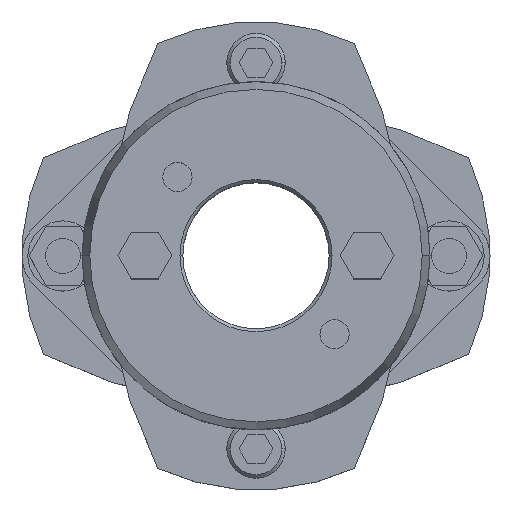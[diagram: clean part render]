
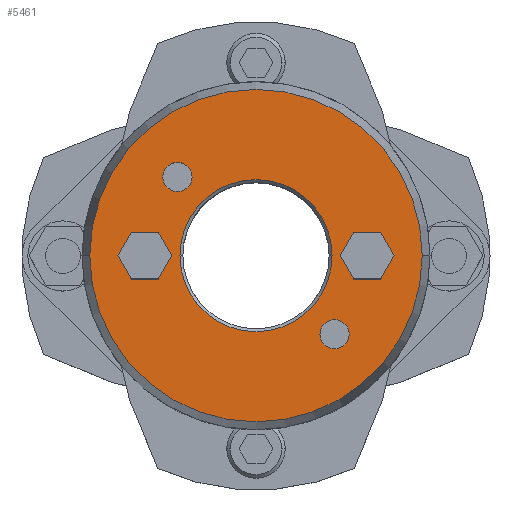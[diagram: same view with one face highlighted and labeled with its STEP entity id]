
A CAD part, top view. The second image highlights one B-rep face of the part: STEP entity #5461.
In plain terms, the highlighted planar face has unit normal (0, 0, 1).
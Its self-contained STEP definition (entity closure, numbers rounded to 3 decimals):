
#857=CARTESIAN_POINT('',(-13.,0.,35.875));
#858=VERTEX_POINT('',#857);
#874=CARTESIAN_POINT('',(13.,0.,35.875));
#875=VERTEX_POINT('',#874);
#882=CARTESIAN_POINT('',(0.,0.,35.875));
#883=DIRECTION('',(0.0,0.0,1.0));
#884=DIRECTION('',(-1.0,0.0,0.0));
#885=AXIS2_PLACEMENT_3D('',#882,#883,#884);
#886=CIRCLE('',#885,13.0);
#887=EDGE_CURVE('',#875,#858,#886,.T.);
#1003=CARTESIAN_POINT('',(28.41,0.,35.875));
#1004=VERTEX_POINT('',#1003);
#1013=CARTESIAN_POINT('',(-28.41,0.,35.875));
#1014=VERTEX_POINT('',#1013);
#1015=CARTESIAN_POINT('',(0.,0.,35.875));
#1016=DIRECTION('',(0.0,0.0,-1.0));
#1017=DIRECTION('',(1.0,0.0,0.0));
#1018=AXIS2_PLACEMENT_3D('',#1015,#1016,#1017);
#1019=CIRCLE('',#1018,28.41);
#1020=EDGE_CURVE('',#1004,#1014,#1019,.T.);
#1189=CARTESIAN_POINT('',(-15.935,13.435,35.875));
#1190=VERTEX_POINT('',#1189);
#1206=CARTESIAN_POINT('',(-10.935,13.435,35.875));
#1207=VERTEX_POINT('',#1206);
#1214=CARTESIAN_POINT('',(-13.435,13.435,35.875));
#1215=DIRECTION('',(0.0,0.0,-1.0));
#1216=DIRECTION('',(-1.0,0.0,0.0));
#1217=AXIS2_PLACEMENT_3D('',#1214,#1215,#1216);
#1218=CIRCLE('',#1217,2.5);
#1219=EDGE_CURVE('',#1190,#1207,#1218,.T.);
#1231=CARTESIAN_POINT('',(10.935,-13.435,35.875));
#1232=VERTEX_POINT('',#1231);
#1248=CARTESIAN_POINT('',(15.935,-13.435,35.875));
#1249=VERTEX_POINT('',#1248);
#1256=CARTESIAN_POINT('',(13.435,-13.435,35.875));
#1257=DIRECTION('',(0.0,0.0,-1.0));
#1258=DIRECTION('',(-1.0,0.0,0.0));
#1259=AXIS2_PLACEMENT_3D('',#1256,#1257,#1258);
#1260=CIRCLE('',#1259,2.5);
#1261=EDGE_CURVE('',#1232,#1249,#1260,.T.);
#4587=CARTESIAN_POINT('',(14.381,0.,35.875));
#4588=VERTEX_POINT('',#4587);
#4595=CARTESIAN_POINT('',(16.691,-4.,35.875));
#4596=VERTEX_POINT('',#4595);
#4597=CARTESIAN_POINT('',(16.691,-4.,35.875));
#4598=DIRECTION('',(-0.5,0.866,0.0));
#4599=VECTOR('',#4598,4.619);
#4600=LINE('',#4597,#4599);
#4601=EDGE_CURVE('',#4596,#4588,#4600,.T.);
#4625=CARTESIAN_POINT('',(16.691,4.,35.875));
#4626=VERTEX_POINT('',#4625);
#4633=CARTESIAN_POINT('',(14.381,0.,35.875));
#4634=DIRECTION('',(0.5,0.866,0.0));
#4635=VECTOR('',#4634,4.619);
#4636=LINE('',#4633,#4635);
#4637=EDGE_CURVE('',#4588,#4626,#4636,.T.);
#4656=CARTESIAN_POINT('',(21.309,4.,35.875));
#4657=VERTEX_POINT('',#4656);
#4664=CARTESIAN_POINT('',(16.691,4.,35.875));
#4665=DIRECTION('',(1.0,0.0,0.0));
#4666=VECTOR('',#4665,4.619);
#4667=LINE('',#4664,#4666);
#4668=EDGE_CURVE('',#4626,#4657,#4667,.T.);
#4687=CARTESIAN_POINT('',(23.619,0.,35.875));
#4688=VERTEX_POINT('',#4687);
#4695=CARTESIAN_POINT('',(21.309,4.,35.875));
#4696=DIRECTION('',(0.5,-0.866,0.0));
#4697=VECTOR('',#4696,4.619);
#4698=LINE('',#4695,#4697);
#4699=EDGE_CURVE('',#4657,#4688,#4698,.T.);
#4718=CARTESIAN_POINT('',(21.309,-4.,35.875));
#4719=VERTEX_POINT('',#4718);
#4726=CARTESIAN_POINT('',(23.619,0.,35.875));
#4727=DIRECTION('',(-0.5,-0.866,0.0));
#4728=VECTOR('',#4727,4.619);
#4729=LINE('',#4726,#4728);
#4730=EDGE_CURVE('',#4688,#4719,#4729,.T.);
#4748=CARTESIAN_POINT('',(21.309,-4.,35.875));
#4749=DIRECTION('',(-1.0,0.0,0.0));
#4750=VECTOR('',#4749,4.619);
#4751=LINE('',#4748,#4750);
#4752=EDGE_CURVE('',#4719,#4596,#4751,.T.);
#4787=CARTESIAN_POINT('',(-23.619,0.,35.875));
#4788=VERTEX_POINT('',#4787);
#4795=CARTESIAN_POINT('',(-21.309,-4.,35.875));
#4796=VERTEX_POINT('',#4795);
#4797=CARTESIAN_POINT('',(-21.309,-4.,35.875));
#4798=DIRECTION('',(-0.5,0.866,0.0));
#4799=VECTOR('',#4798,4.619);
#4800=LINE('',#4797,#4799);
#4801=EDGE_CURVE('',#4796,#4788,#4800,.T.);
#4825=CARTESIAN_POINT('',(-21.309,4.,35.875));
#4826=VERTEX_POINT('',#4825);
#4833=CARTESIAN_POINT('',(-23.619,0.,35.875));
#4834=DIRECTION('',(0.5,0.866,0.0));
#4835=VECTOR('',#4834,4.619);
#4836=LINE('',#4833,#4835);
#4837=EDGE_CURVE('',#4788,#4826,#4836,.T.);
#4856=CARTESIAN_POINT('',(-16.691,4.,35.875));
#4857=VERTEX_POINT('',#4856);
#4864=CARTESIAN_POINT('',(-21.309,4.,35.875));
#4865=DIRECTION('',(1.0,0.0,0.0));
#4866=VECTOR('',#4865,4.619);
#4867=LINE('',#4864,#4866);
#4868=EDGE_CURVE('',#4826,#4857,#4867,.T.);
#4887=CARTESIAN_POINT('',(-14.381,0.,35.875));
#4888=VERTEX_POINT('',#4887);
#4895=CARTESIAN_POINT('',(-16.691,4.,35.875));
#4896=DIRECTION('',(0.5,-0.866,0.0));
#4897=VECTOR('',#4896,4.619);
#4898=LINE('',#4895,#4897);
#4899=EDGE_CURVE('',#4857,#4888,#4898,.T.);
#4918=CARTESIAN_POINT('',(-16.691,-4.,35.875));
#4919=VERTEX_POINT('',#4918);
#4926=CARTESIAN_POINT('',(-14.381,0.,35.875));
#4927=DIRECTION('',(-0.5,-0.866,0.0));
#4928=VECTOR('',#4927,4.619);
#4929=LINE('',#4926,#4928);
#4930=EDGE_CURVE('',#4888,#4919,#4929,.T.);
#4948=CARTESIAN_POINT('',(-16.691,-4.,35.875));
#4949=DIRECTION('',(-1.0,0.0,0.0));
#4950=VECTOR('',#4949,4.619);
#4951=LINE('',#4948,#4950);
#4952=EDGE_CURVE('',#4919,#4796,#4951,.T.);
#4978=CARTESIAN_POINT('',(13.435,-13.435,35.875));
#4979=DIRECTION('',(0.0,0.0,-1.0));
#4980=DIRECTION('',(-1.0,0.0,0.0));
#4981=AXIS2_PLACEMENT_3D('',#4978,#4979,#4980);
#4982=CIRCLE('',#4981,2.5);
#4983=EDGE_CURVE('',#1249,#1232,#4982,.T.);
#5012=CARTESIAN_POINT('',(-13.435,13.435,35.875));
#5013=DIRECTION('',(0.0,0.0,-1.0));
#5014=DIRECTION('',(-1.0,0.0,0.0));
#5015=AXIS2_PLACEMENT_3D('',#5012,#5013,#5014);
#5016=CIRCLE('',#5015,2.5);
#5017=EDGE_CURVE('',#1207,#1190,#5016,.T.);
#5408=CARTESIAN_POINT('',(0.,0.,35.875));
#5409=DIRECTION('',(0.0,0.0,-1.0));
#5410=DIRECTION('',(1.0,0.0,0.0));
#5411=AXIS2_PLACEMENT_3D('',#5408,#5409,#5410);
#5412=CIRCLE('',#5411,28.41);
#5413=EDGE_CURVE('',#1014,#1004,#5412,.T.);
#5418=CARTESIAN_POINT('',(-2.364,0.,35.875));
#5419=DIRECTION('',(0.0,0.0,1.0));
#5420=DIRECTION('',(-1.0,0.0,0.0));
#5421=AXIS2_PLACEMENT_3D('',#5418,#5419,#5420);
#5422=PLANE('',#5421);
#5423=ORIENTED_EDGE('',*,*,#5413,.F.);
#5424=ORIENTED_EDGE('',*,*,#1020,.F.);
#5425=EDGE_LOOP('',(#5423,#5424));
#5426=FACE_OUTER_BOUND('',#5425,.T.);
#5427=ORIENTED_EDGE('',*,*,#4601,.T.);
#5428=ORIENTED_EDGE('',*,*,#4637,.T.);
#5429=ORIENTED_EDGE('',*,*,#4668,.T.);
#5430=ORIENTED_EDGE('',*,*,#4699,.T.);
#5431=ORIENTED_EDGE('',*,*,#4730,.T.);
#5432=ORIENTED_EDGE('',*,*,#4752,.T.);
#5433=EDGE_LOOP('',(#5427,#5428,#5429,#5430,#5431,#5432));
#5434=FACE_BOUND('',#5433,.T.);
#5435=ORIENTED_EDGE('',*,*,#4801,.T.);
#5436=ORIENTED_EDGE('',*,*,#4837,.T.);
#5437=ORIENTED_EDGE('',*,*,#4868,.T.);
#5438=ORIENTED_EDGE('',*,*,#4899,.T.);
#5439=ORIENTED_EDGE('',*,*,#4930,.T.);
#5440=ORIENTED_EDGE('',*,*,#4952,.T.);
#5441=EDGE_LOOP('',(#5435,#5436,#5437,#5438,#5439,#5440));
#5442=FACE_BOUND('',#5441,.T.);
#5443=ORIENTED_EDGE('',*,*,#1261,.T.);
#5444=ORIENTED_EDGE('',*,*,#4983,.T.);
#5445=EDGE_LOOP('',(#5443,#5444));
#5446=FACE_BOUND('',#5445,.T.);
#5447=ORIENTED_EDGE('',*,*,#1219,.T.);
#5448=ORIENTED_EDGE('',*,*,#5017,.T.);
#5449=EDGE_LOOP('',(#5447,#5448));
#5450=FACE_BOUND('',#5449,.T.);
#5451=ORIENTED_EDGE('',*,*,#887,.F.);
#5452=CARTESIAN_POINT('',(0.,0.,35.875));
#5453=DIRECTION('',(0.0,0.0,1.0));
#5454=DIRECTION('',(-1.0,0.0,0.0));
#5455=AXIS2_PLACEMENT_3D('',#5452,#5453,#5454);
#5456=CIRCLE('',#5455,13.0);
#5457=EDGE_CURVE('',#858,#875,#5456,.T.);
#5458=ORIENTED_EDGE('',*,*,#5457,.F.);
#5459=EDGE_LOOP('',(#5451,#5458));
#5460=FACE_BOUND('',#5459,.T.);
#5461=ADVANCED_FACE('',(#5426,#5434,#5442,#5446,#5450,#5460),#5422,.T.);
